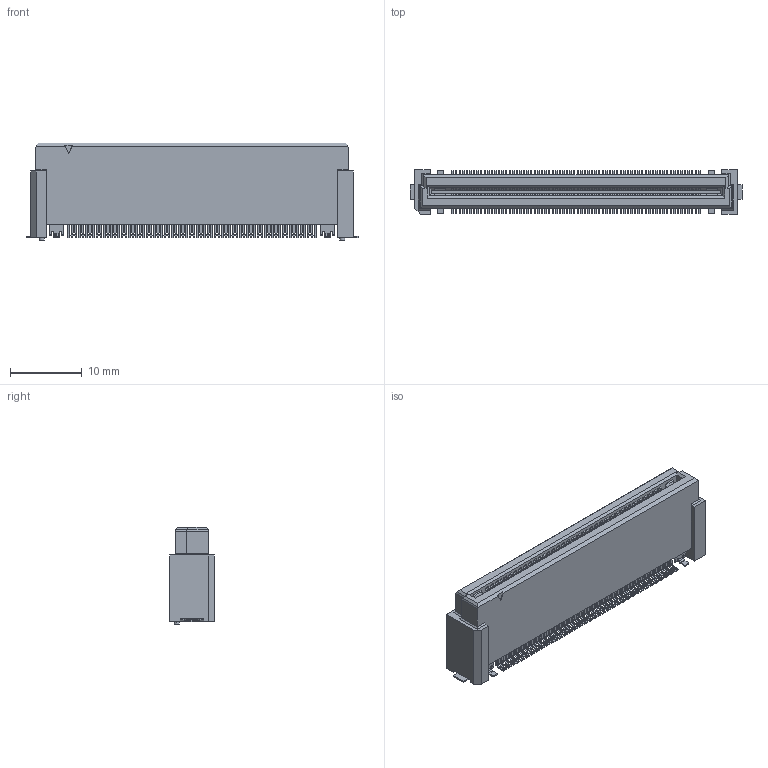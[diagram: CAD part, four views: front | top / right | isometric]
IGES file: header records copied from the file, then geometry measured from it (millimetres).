
Start section: Elysium IGES Interface
Global section: file name: 124HG:\その他\DT関連\DT_CADﾃﾞｰﾀ\DT_3DCAD(客先提出用)\プラグ\DT1XE(電源pin)\-15\DT11E-XXXS-15-T(WEB用)\P3E816_DT11E-140S-15-T.igs; native system: Creo Elements/Direct Modeling 20.6  25-Mar-2023; preprocessor: Creo Element/Direct IGES_3D V2.2; author: Unknown; organization: Unknown; date: 20240313.113033; units: millimetre
Bounding box: 46.4 x 6.2 x 13.63 mm (x, y, z)
Volume: 2295.5 mm3; surface area: 2428.3 mm2
Topology: 1 solids, 1 shells, 4365 faces, 12322 edges, 8108 vertices
Faces by surface type: bspline 4365
